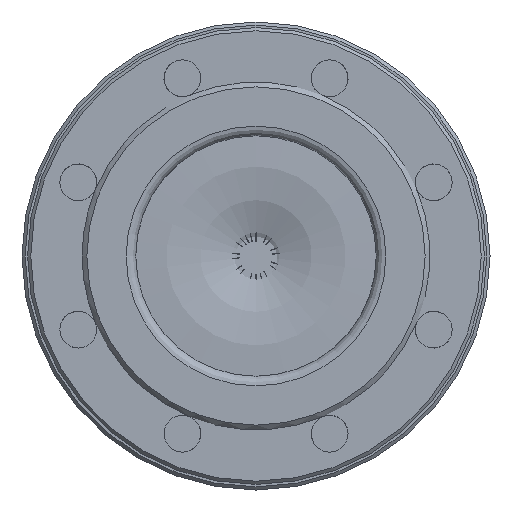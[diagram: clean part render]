
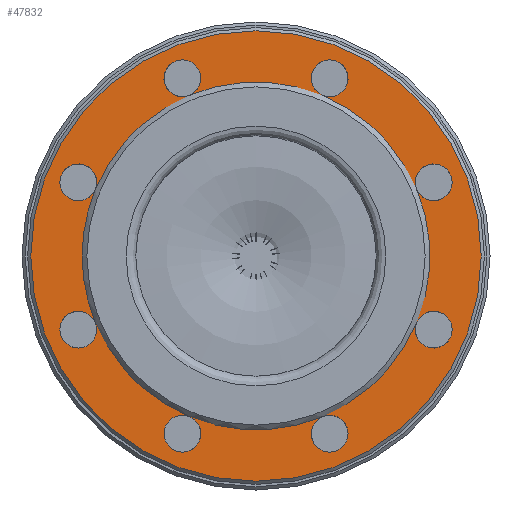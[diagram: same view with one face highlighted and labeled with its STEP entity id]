
A CAD part, front view. The second image highlights one B-rep face of the part: STEP entity #47832.
In plain terms, the highlighted planar face has unit normal (0, -1, 0).
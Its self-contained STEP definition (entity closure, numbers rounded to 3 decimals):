
#5484=PLANE('',#50653);
#10075=ORIENTED_EDGE('',*,*,#16838,.T.);
#10076=ORIENTED_EDGE('',*,*,#16836,.F.);
#10077=ORIENTED_EDGE('',*,*,#16839,.T.);
#10078=ORIENTED_EDGE('',*,*,#16835,.F.);
#10079=ORIENTED_EDGE('',*,*,#16840,.T.);
#10080=ORIENTED_EDGE('',*,*,#16834,.F.);
#10081=ORIENTED_EDGE('',*,*,#16841,.T.);
#10082=ORIENTED_EDGE('',*,*,#16833,.F.);
#10083=ORIENTED_EDGE('',*,*,#16842,.T.);
#10084=ORIENTED_EDGE('',*,*,#16832,.F.);
#10085=ORIENTED_EDGE('',*,*,#16843,.T.);
#10086=ORIENTED_EDGE('',*,*,#16831,.F.);
#10087=ORIENTED_EDGE('',*,*,#16844,.T.);
#10088=ORIENTED_EDGE('',*,*,#16830,.F.);
#10089=ORIENTED_EDGE('',*,*,#16845,.T.);
#10090=ORIENTED_EDGE('',*,*,#16829,.F.);
#10091=ORIENTED_EDGE('',*,*,#16828,.F.);
#16828=EDGE_CURVE('',#20534,#20534,#22957,.T.);
#16829=EDGE_CURVE('',#20535,#20535,#22958,.T.);
#16830=EDGE_CURVE('',#20536,#20536,#22959,.T.);
#16831=EDGE_CURVE('',#20537,#20537,#22960,.T.);
#16832=EDGE_CURVE('',#20538,#20538,#22961,.T.);
#16833=EDGE_CURVE('',#20539,#20539,#22962,.T.);
#16834=EDGE_CURVE('',#20540,#20540,#22963,.T.);
#16835=EDGE_CURVE('',#20541,#20541,#22964,.T.);
#16836=EDGE_CURVE('',#20542,#20542,#22965,.T.);
#16838=EDGE_CURVE('',#20535,#20542,#22967,.T.);
#16839=EDGE_CURVE('',#20542,#20541,#22968,.T.);
#16840=EDGE_CURVE('',#20541,#20540,#22969,.T.);
#16841=EDGE_CURVE('',#20540,#20539,#22970,.T.);
#16842=EDGE_CURVE('',#20539,#20538,#22971,.T.);
#16843=EDGE_CURVE('',#20538,#20537,#22972,.T.);
#16844=EDGE_CURVE('',#20537,#20536,#22973,.T.);
#16845=EDGE_CURVE('',#20536,#20535,#22974,.T.);
#20534=VERTEX_POINT('',#73493);
#20535=VERTEX_POINT('',#73496);
#20536=VERTEX_POINT('',#73499);
#20537=VERTEX_POINT('',#73502);
#20538=VERTEX_POINT('',#73505);
#20539=VERTEX_POINT('',#73508);
#20540=VERTEX_POINT('',#73511);
#20541=VERTEX_POINT('',#73514);
#20542=VERTEX_POINT('',#73517);
#22957=CIRCLE('',#50634,140.5);
#22958=CIRCLE('',#50636,11.5);
#22959=CIRCLE('',#50638,11.5);
#22960=CIRCLE('',#50640,11.5);
#22961=CIRCLE('',#50642,11.5);
#22962=CIRCLE('',#50644,11.5);
#22963=CIRCLE('',#50646,11.5);
#22964=CIRCLE('',#50648,11.5);
#22965=CIRCLE('',#50650,11.5);
#22967=CIRCLE('',#50654,108.5);
#22968=CIRCLE('',#50655,108.5);
#22969=CIRCLE('',#50656,108.5);
#22970=CIRCLE('',#50657,108.5);
#22971=CIRCLE('',#50658,108.5);
#22972=CIRCLE('',#50659,108.5);
#22973=CIRCLE('',#50660,108.5);
#22974=CIRCLE('',#50661,108.5);
#25128=EDGE_LOOP('',(#10075,#10076,#10077,#10078,#10079,#10080,#10081,#10082,
#10083,#10084,#10085,#10086,#10087,#10088,#10089,#10090));
#25129=EDGE_LOOP('',(#10091));
#28600=FACE_BOUND('',#25128,.T.);
#28601=FACE_BOUND('',#25129,.T.);
#47832=ADVANCED_FACE('',(#28600,#28601),#5484,.T.);
#50634=AXIS2_PLACEMENT_3D('',#73492,#56076,#56077);
#50636=AXIS2_PLACEMENT_3D('',#73495,#56080,#56081);
#50638=AXIS2_PLACEMENT_3D('',#73498,#56084,#56085);
#50640=AXIS2_PLACEMENT_3D('',#73501,#56088,#56089);
#50642=AXIS2_PLACEMENT_3D('',#73504,#56092,#56093);
#50644=AXIS2_PLACEMENT_3D('',#73507,#56096,#56097);
#50646=AXIS2_PLACEMENT_3D('',#73510,#56100,#56101);
#50648=AXIS2_PLACEMENT_3D('',#73513,#56104,#56105);
#50650=AXIS2_PLACEMENT_3D('',#73516,#56108,#56109);
#50653=AXIS2_PLACEMENT_3D('',#73521,#56114,#56115);
#50654=AXIS2_PLACEMENT_3D('',#73522,#56116,#56117);
#50655=AXIS2_PLACEMENT_3D('',#73523,#56118,#56119);
#50656=AXIS2_PLACEMENT_3D('',#73524,#56120,#56121);
#50657=AXIS2_PLACEMENT_3D('',#73525,#56122,#56123);
#50658=AXIS2_PLACEMENT_3D('',#73526,#56124,#56125);
#50659=AXIS2_PLACEMENT_3D('',#73527,#56126,#56127);
#50660=AXIS2_PLACEMENT_3D('',#73528,#56128,#56129);
#50661=AXIS2_PLACEMENT_3D('',#73529,#56130,#56131);
#56076=DIRECTION('',(0.,1.,0.));
#56077=DIRECTION('',(-1.,0.,0.));
#56080=DIRECTION('',(0.,-1.,0.));
#56081=DIRECTION('',(1.,0.,0.));
#56084=DIRECTION('',(0.,-1.,0.));
#56085=DIRECTION('',(1.,0.,0.));
#56088=DIRECTION('',(0.,-1.,0.));
#56089=DIRECTION('',(1.,0.,0.));
#56092=DIRECTION('',(0.,-1.,0.));
#56093=DIRECTION('',(1.,0.,0.));
#56096=DIRECTION('',(0.,-1.,0.));
#56097=DIRECTION('',(1.,0.,0.));
#56100=DIRECTION('',(0.,-1.,0.));
#56101=DIRECTION('',(1.,0.,0.));
#56104=DIRECTION('',(0.,-1.,0.));
#56105=DIRECTION('',(1.,0.,0.));
#56108=DIRECTION('',(0.,-1.,0.));
#56109=DIRECTION('',(1.,0.,0.));
#56114=DIRECTION('',(0.,-1.,0.));
#56115=DIRECTION('',(1.,0.,0.));
#56116=DIRECTION('',(0.,1.,0.));
#56117=DIRECTION('',(-1.,0.,0.));
#56118=DIRECTION('',(0.,1.,0.));
#56119=DIRECTION('',(-1.,0.,0.));
#56120=DIRECTION('',(0.,1.,0.));
#56121=DIRECTION('',(-1.,0.,0.));
#56122=DIRECTION('',(0.,1.,0.));
#56123=DIRECTION('',(-1.,0.,0.));
#56124=DIRECTION('',(0.,1.,0.));
#56125=DIRECTION('',(-1.,0.,0.));
#56126=DIRECTION('',(0.,1.,0.));
#56127=DIRECTION('',(-1.,0.,0.));
#56128=DIRECTION('',(0.,1.,0.));
#56129=DIRECTION('',(-1.,0.,0.));
#56130=DIRECTION('',(0.,1.,0.));
#56131=DIRECTION('',(-1.,0.,0.));
#73492=CARTESIAN_POINT('',(0.,-85.,0.));
#73493=CARTESIAN_POINT('',(-140.5,-85.,0.));
#73495=CARTESIAN_POINT('',(-45.922,-85.,110.866));
#73496=CARTESIAN_POINT('',(-41.521,-85.,100.241));
#73498=CARTESIAN_POINT('',(-110.866,-85.,45.922));
#73499=CARTESIAN_POINT('',(-100.241,-85.,41.521));
#73501=CARTESIAN_POINT('',(-110.866,-85.,-45.922));
#73502=CARTESIAN_POINT('',(-100.241,-85.,-41.521));
#73504=CARTESIAN_POINT('',(-45.922,-85.,-110.866));
#73505=CARTESIAN_POINT('',(-41.521,-85.,-100.241));
#73507=CARTESIAN_POINT('',(45.922,-85.,-110.866));
#73508=CARTESIAN_POINT('',(41.521,-85.,-100.241));
#73510=CARTESIAN_POINT('',(110.866,-85.,-45.922));
#73511=CARTESIAN_POINT('',(100.241,-85.,-41.521));
#73513=CARTESIAN_POINT('',(110.866,-85.,45.922));
#73514=CARTESIAN_POINT('',(100.241,-85.,41.521));
#73516=CARTESIAN_POINT('',(45.922,-85.,110.866));
#73517=CARTESIAN_POINT('',(41.521,-85.,100.241));
#73521=CARTESIAN_POINT('',(108.5,-85.,0.));
#73522=CARTESIAN_POINT('',(0.,-85.,0.));
#73523=CARTESIAN_POINT('',(0.,-85.,0.));
#73524=CARTESIAN_POINT('',(0.,-85.,0.));
#73525=CARTESIAN_POINT('',(0.,-85.,0.));
#73526=CARTESIAN_POINT('',(0.,-85.,0.));
#73527=CARTESIAN_POINT('',(0.,-85.,0.));
#73528=CARTESIAN_POINT('',(0.,-85.,0.));
#73529=CARTESIAN_POINT('',(0.,-85.,0.));
